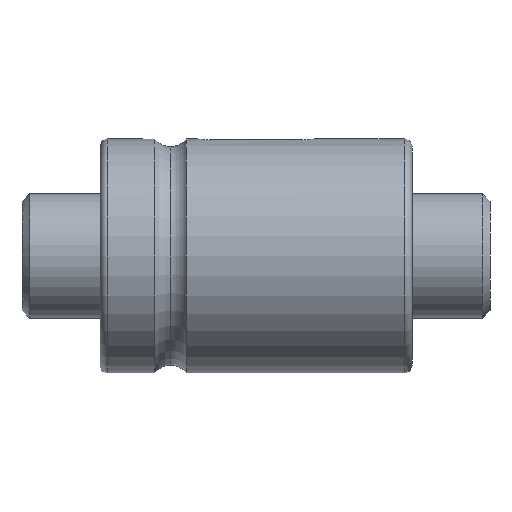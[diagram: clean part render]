
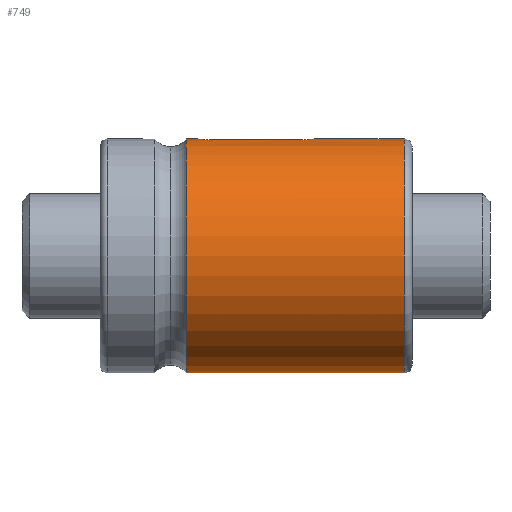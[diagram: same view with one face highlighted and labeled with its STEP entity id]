
A CAD part, front view. The second image highlights one B-rep face of the part: STEP entity #749.
In plain terms, the highlighted cylindrical face has radius 15 mm (diameter 30 mm), a partial arc.
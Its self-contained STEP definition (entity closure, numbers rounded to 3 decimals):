
#43 = EDGE_CURVE ( 'NONE', #189, #969, #3286, .T. ) ;
#46 = DIRECTION ( 'NONE',  ( -1., 0., 0. ) ) ;
#60 = CYLINDRICAL_SURFACE ( 'NONE', #2415, 15. ) ;
#78 = CARTESIAN_POINT ( 'NONE',  ( 26., -1.5, 14.925 ) ) ;
#103 = CARTESIAN_POINT ( 'NONE',  ( 13.249, -1.302, 14.943 ) ) ;
#104 = CARTESIAN_POINT ( 'NONE',  ( 27.423, -0.483, 14.992 ) ) ;
#128 = CARTESIAN_POINT ( 'NONE',  ( 12.69, -0.756, 14.982 ) ) ;
#144 = DIRECTION ( 'NONE',  ( -1., 0., 0. ) ) ;
#175 = ORIENTED_EDGE ( 'NONE', *, *, #1829, .F. ) ;
#189 = VERTEX_POINT ( 'NONE', #1128 ) ;
#276 = CARTESIAN_POINT ( 'NONE',  ( 27.5, 0., 15. ) ) ;
#320 = CARTESIAN_POINT ( 'NONE',  ( 27.193, -0.914, 14.972 ) ) ;
#336 = CARTESIAN_POINT ( 'NONE',  ( 26.756, -1.31, 14.943 ) ) ;
#373 = CARTESIAN_POINT ( 'NONE',  ( 11.041, 0., 15. ) ) ;
#377 = CARTESIAN_POINT ( 'NONE',  ( 13.335, -1.348, 14.939 ) ) ;
#416 = CARTESIAN_POINT ( 'NONE',  ( 11.041, 0., -15. ) ) ;
#559 = LINE ( 'NONE', #2920, #1148 ) ;
#575 = CARTESIAN_POINT ( 'NONE',  ( 26.923, -1.199, 14.953 ) ) ;
#602 = CARTESIAN_POINT ( 'NONE',  ( 27.5, 0., 15. ) ) ;
#693 = VECTOR ( 'NONE', #2084, 1000. ) ;
#707 = DIRECTION ( 'NONE',  ( -1., 0., 0. ) ) ;
#741 = CARTESIAN_POINT ( 'NONE',  ( 40., 0., 15. ) ) ;
#742 = ORIENTED_EDGE ( 'NONE', *, *, #3180, .T. ) ;
#749 = ADVANCED_FACE ( 'NONE', ( #1477 ), #60, .T. ) ;
#857 = CARTESIAN_POINT ( 'NONE',  ( 27.348, -0.665, 14.986 ) ) ;
#882 = CARTESIAN_POINT ( 'NONE',  ( 27.13, -0.991, 14.967 ) ) ;
#969 = VERTEX_POINT ( 'NONE', #3376 ) ;
#975 = CARTESIAN_POINT ( 'NONE',  ( 39., 0., 15. ) ) ;
#1029 = CARTESIAN_POINT ( 'NONE',  ( 12.5, 0., 15. ) ) ;
#1073 = EDGE_CURVE ( 'NONE', #969, #1282, #1630, .T. ) ;
#1128 = CARTESIAN_POINT ( 'NONE',  ( 26., -1.5, 14.925 ) ) ;
#1148 = VECTOR ( 'NONE', #46, 1000. ) ;
#1149 = DIRECTION ( 'NONE',  ( -1., 0., 0. ) ) ;
#1192 = LINE ( 'NONE', #3015, #1310 ) ;
#1225 = VECTOR ( 'NONE', #707, 1000. ) ;
#1282 = VERTEX_POINT ( 'NONE', #1029 ) ;
#1283 = CARTESIAN_POINT ( 'NONE',  ( 40., -1.5, 14.925 ) ) ;
#1304 = EDGE_CURVE ( 'NONE', #3050, #1618, #1615, .T. ) ;
#1306 = ORIENTED_EDGE ( 'NONE', *, *, #1073, .T. ) ;
#1310 = VECTOR ( 'NONE', #1149, 1000. ) ;
#1316 = VERTEX_POINT ( 'NONE', #276 ) ;
#1418 = CARTESIAN_POINT ( 'NONE',  ( 13.901, -1.5, 14.925 ) ) ;
#1434 = CARTESIAN_POINT ( 'NONE',  ( 14., -1.5, 14.925 ) ) ;
#1449 = CARTESIAN_POINT ( 'NONE',  ( 12.54, -0.395, 14.996 ) ) ;
#1472 = CARTESIAN_POINT ( 'NONE',  ( 12.5, -0.198, 15. ) ) ;
#1477 = FACE_OUTER_BOUND ( 'NONE', #2203, .T. ) ;
#1519 = DIRECTION ( 'NONE',  ( 0., 0., 1. ) ) ;
#1544 = ORIENTED_EDGE ( 'NONE', *, *, #2436, .T. ) ;
#1615 = CIRCLE ( 'NONE', #2060, 15. ) ;
#1618 = VERTEX_POINT ( 'NONE', #975 ) ;
#1630 = B_SPLINE_CURVE_WITH_KNOTS ( 'NONE', 3,
 ( #1434, #1418, #1715, #1692, #3032, #377, #103, #2763, #1942, #2738, #128, #1449, #1472, #3316 ),
 .UNSPECIFIED., .F., .F.,
 ( 4, 2, 2, 2, 2, 2, 4 ),
 ( -0.002, -0.002, -0.002, -0.001, -0.001, -0.001, 0. ),
 .UNSPECIFIED. ) ;
#1692 = CARTESIAN_POINT ( 'NONE',  ( 13.612, -1.452, 14.93 ) ) ;
#1715 = CARTESIAN_POINT ( 'NONE',  ( 13.803, -1.49, 14.926 ) ) ;
#1761 = CARTESIAN_POINT ( 'NONE',  ( 39., 0., -15. ) ) ;
#1778 = ORIENTED_EDGE ( 'NONE', *, *, #1304, .T. ) ;
#1792 = ORIENTED_EDGE ( 'NONE', *, *, #43, .T. ) ;
#1829 = EDGE_CURVE ( 'NONE', #3050, #2448, #1192, .T. ) ;
#1865 = DIRECTION ( 'NONE',  ( -1., 0., 0. ) ) ;
#1924 = CARTESIAN_POINT ( 'NONE',  ( 40., 0., 0. ) ) ;
#1931 = CARTESIAN_POINT ( 'NONE',  ( 27.49, -0.197, 14.999 ) ) ;
#1942 = CARTESIAN_POINT ( 'NONE',  ( 13.009, -1.13, 14.958 ) ) ;
#2000 = DIRECTION ( 'NONE',  ( 1., 0., 0. ) ) ;
#2049 = EDGE_CURVE ( 'NONE', #1618, #1316, #559, .T. ) ;
#2060 = AXIS2_PLACEMENT_3D ( 'NONE', #2374, #1865, #3222 ) ;
#2084 = DIRECTION ( 'NONE',  ( -1., 0., 0. ) ) ;
#2146 = B_SPLINE_CURVE_WITH_KNOTS ( 'NONE', 3,
 ( #602, #2978, #1931, #2445, #104, #857, #2175, #320, #882, #575, #336, #2991, #2162, #78 ),
 .UNSPECIFIED., .F., .F.,
 ( 4, 2, 2, 2, 2, 2, 4 ),
 ( 0.002, 0.003, 0.003, 0.003, 0.004, 0.004, 0.005 ),
 .UNSPECIFIED. ) ;
#2162 = CARTESIAN_POINT ( 'NONE',  ( 26.198, -1.5, 14.925 ) ) ;
#2175 = CARTESIAN_POINT ( 'NONE',  ( 27.302, -0.751, 14.981 ) ) ;
#2203 = EDGE_LOOP ( 'NONE', ( #175, #1778, #2623, #742, #1792, #1306, #3098, #1544 ) ) ;
#2222 = AXIS2_PLACEMENT_3D ( 'NONE', #2826, #2000, #1519 ) ;
#2283 = VERTEX_POINT ( 'NONE', #373 ) ;
#2374 = CARTESIAN_POINT ( 'NONE',  ( 39., 0., 0. ) ) ;
#2415 = AXIS2_PLACEMENT_3D ( 'NONE', #1924, #144, #3292 ) ;
#2436 = EDGE_CURVE ( 'NONE', #2283, #2448, #2894, .T. ) ;
#2445 = CARTESIAN_POINT ( 'NONE',  ( 27.452, -0.388, 14.995 ) ) ;
#2448 = VERTEX_POINT ( 'NONE', #416 ) ;
#2623 = ORIENTED_EDGE ( 'NONE', *, *, #2049, .T. ) ;
#2630 = LINE ( 'NONE', #741, #1225 ) ;
#2738 = CARTESIAN_POINT ( 'NONE',  ( 12.801, -0.923, 14.972 ) ) ;
#2763 = CARTESIAN_POINT ( 'NONE',  ( 13.086, -1.193, 14.953 ) ) ;
#2826 = CARTESIAN_POINT ( 'NONE',  ( 11.041, 0., 0. ) ) ;
#2894 = CIRCLE ( 'NONE', #2222, 15. ) ;
#2920 = CARTESIAN_POINT ( 'NONE',  ( 40., 0., 15. ) ) ;
#2978 = CARTESIAN_POINT ( 'NONE',  ( 27.5, -0.099, 15. ) ) ;
#2991 = CARTESIAN_POINT ( 'NONE',  ( 26.395, -1.46, 14.929 ) ) ;
#3015 = CARTESIAN_POINT ( 'NONE',  ( 40., 0., -15. ) ) ;
#3032 = CARTESIAN_POINT ( 'NONE',  ( 13.517, -1.423, 14.932 ) ) ;
#3050 = VERTEX_POINT ( 'NONE', #1761 ) ;
#3098 = ORIENTED_EDGE ( 'NONE', *, *, #3386, .T. ) ;
#3180 = EDGE_CURVE ( 'NONE', #1316, #189, #2146, .T. ) ;
#3222 = DIRECTION ( 'NONE',  ( 0., 0., -1. ) ) ;
#3286 = LINE ( 'NONE', #1283, #693 ) ;
#3292 = DIRECTION ( 'NONE',  ( 0., 0., 1. ) ) ;
#3316 = CARTESIAN_POINT ( 'NONE',  ( 12.5, 0., 15. ) ) ;
#3376 = CARTESIAN_POINT ( 'NONE',  ( 14., -1.5, 14.925 ) ) ;
#3386 = EDGE_CURVE ( 'NONE', #1282, #2283, #2630, .T. ) ;
